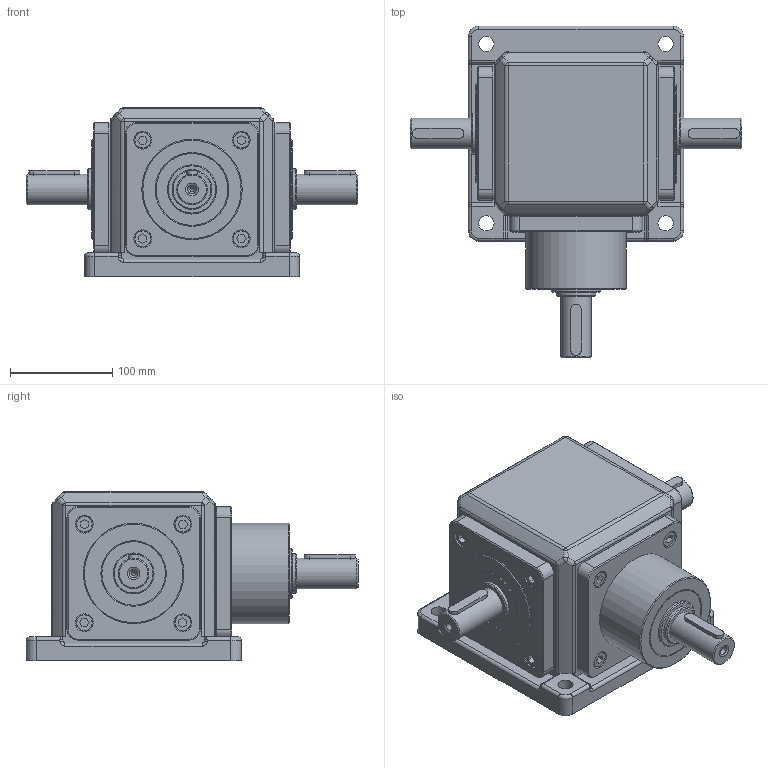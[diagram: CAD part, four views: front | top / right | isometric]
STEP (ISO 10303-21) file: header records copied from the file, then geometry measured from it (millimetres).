
FILE_DESCRIPTION(('STEP AP203'),'1');
FILE_NAME('SMB200.stp','2022-07-27T10:13:17',(' '),(' '),'Spatial InterOp 3D',' ',' ');
FILE_SCHEMA(('CONFIG_CONTROL_DESIGN'));
Length unit declared in the file: millimetre
Products named in the file (34): SMB200; SMB200(BEVEL GEAR BOX); SMB200(SHAFT); Key; SMB200(BEVEL GEAR BOX COVER); ASSEM1; M10 BoltAssembly; VT1M10x20; 파트278
Assembly tree (40 placements, depth 5):
  SMB200
    SMB200(BEVEL GEAR BOX)
    SMB200(SHAFT)
      SMB200(SHAFT)
      Key  x2
      Key
    SMB200(SHAFT)
      SMB200(SHAFT)
      Key
      Key
    SMB200(BEVEL GEAR BOX COVER)
      ASSEM1
      M10 BoltAssembly
        M10 BoltAssembly  x4
          VT1M10x20
      (unnamed)
    SMB200(BEVEL GEAR BOX COVER)
      ASSEM1
      M10 BoltAssembly
        M10 BoltAssembly
          VT1M10x20
        M10 BoltAssembly
          VT1M10x20
        M10 BoltAssembly
          VT1M10x20
        M10 BoltAssembly
          VT1M10x20
      (unnamed)
    SMB200(BEVEL GEAR BOX COVER)
      SMB200(BEVEL GEAR BOX COVER)
      M10 BoltAssembly
        M10 BoltAssembly  x4
          VT1M10x20
      파트278
Bounding box: 324 x 324 x 165 mm (x, y, z)
Volume: 3268002.7 mm3; surface area: 551989.8 mm2
Topology: 26 solids, 26 shells, 799 faces, 1736 edges, 1031 vertices
Faces by surface type: plane 299, cylinder 277, cone 99, torus 76, bspline 24, sphere 24
Full cylindrical faces by diameter (mm): 4 x3, 8 x1, 10 x24, 11 x12, 15 x4, 16 x12, 17.5 x12, 30 x3, 39 x1, 40 x5, 48 x3, 58 x1, 62 x4, 68 x2, 70 x2, 80 x2, 88 x1, 98 x3, 113 x2, 113.2 x1, 116 x9
Entity records: 21909 total; most frequent: CARTESIAN_POINT 5114, DIRECTION 3495, ORIENTED_EDGE 2650, AXIS2_PLACEMENT_3D 1454, EDGE_CURVE 1325, EDGE_LOOP 964, VERTEX_POINT 889, FACE_OUTER_BOUND 804
